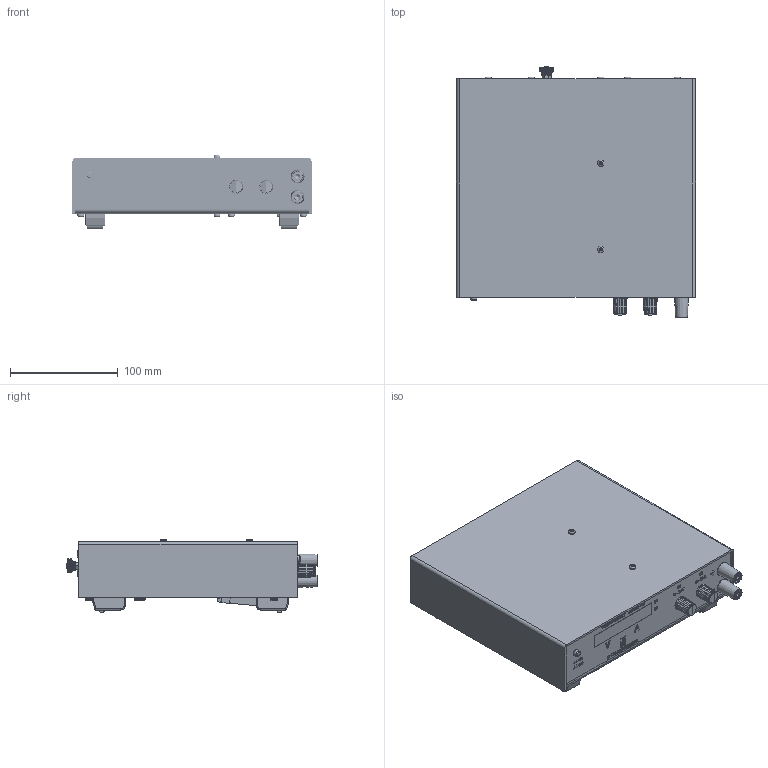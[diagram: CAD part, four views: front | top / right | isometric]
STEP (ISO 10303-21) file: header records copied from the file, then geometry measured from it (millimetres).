
FILE_DESCRIPTION(/* description */ (''),/* implementation_level */ '2;1');
FILE_NAME(/* name */ 'A:\Data\ES150\option\P150\step file\ES150 P150.stp',/* time_stamp */ '2021-04-02T16:18:09+02:00',/* author */ ('Delta'),/* organization */ (''),/* preprocessor_version */ 'ST-DEVELOPER v17.2',/* originating_system */ 'Autodesk Inventor 2019',/* authorisation */ '');
FILE_SCHEMA (('AUTOMOTIVE_DESIGN { 1 0 10303 214 3 1 1 }'));
Products named in the file (1): assembly ES15-10 P150_Shrinkwrap_1
Bounding box: 222 x 233.3 x 68.2 mm (x, y, z)
Volume: 2334309.8 mm3; surface area: 461880.1 mm2
Topology: 61 solids, 61 shells, 3779 faces, 9969 edges, 6337 vertices
Faces by surface type: plane 2081, cylinder 866, bspline 405, cone 265, torus 94, sphere 68
Full cylindrical faces by diameter (mm): 2 x4, 2.2 x4, 2.4 x1, 3 x31, 3.02 x1, 3.2 x16, 3.242 x2, 3.4 x2, 3.42 x2, 3.5 x372, 4 x4, 4.2 x2, 4.3 x3, 4.5 x3, 4.75 x4, 5 x1, 5.8 x1, 6 x31, 6.2 x4, 6.5 x2, 7 x4, 7.8 x2, 8 x6, 8.3 x2, 8.8 x2, 9 x4, 9.3 x2, 10 x2, 10.5 x1, 10.7 x2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
Entity records: 127545 total; most frequent: CARTESIAN_POINT 30722, ORIENTED_EDGE 19886, DIRECTION 18051, EDGE_CURVE 9943, VERTEX_POINT 6337, AXIS2_PLACEMENT_3D 6116, LINE 5819, VECTOR 5819
